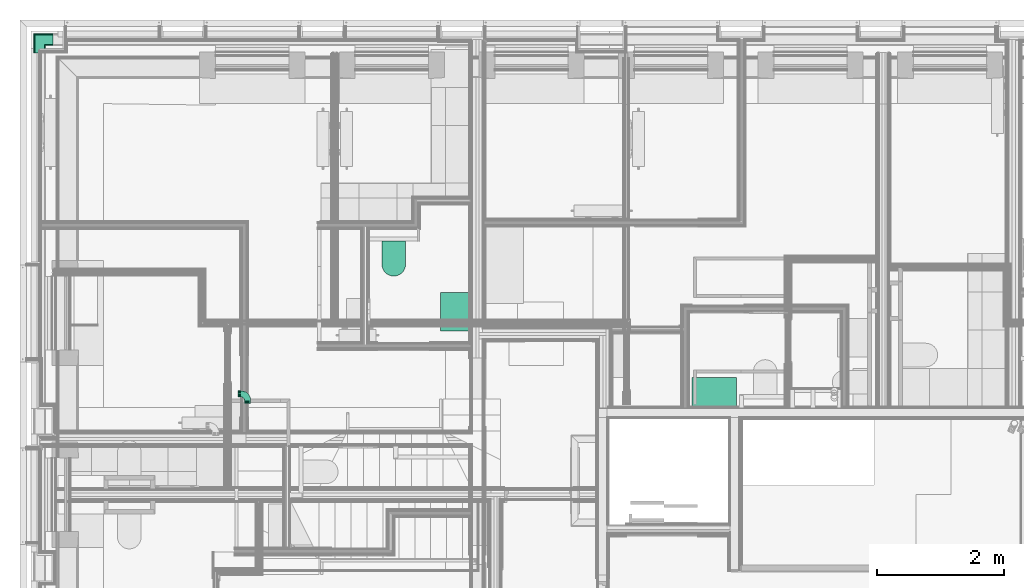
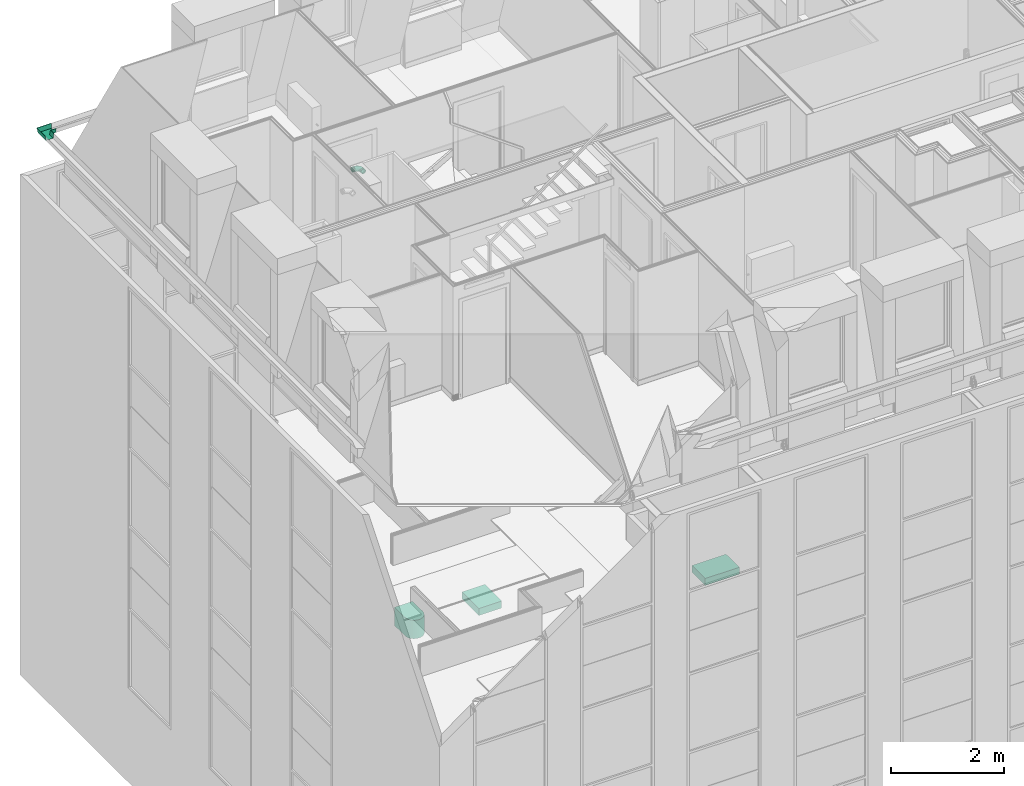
# One storey, part 157 of 169: 3 flow terminals, 2 flow fittings.
"""IFC2X3 building model written with IfcOpenShell, lengths in metres."""

from ifc_helpers import new_model, entity, si_unit, converted_unit, derived_unit, money_unit, direction, frame, origin_with_axes, place, context, subcontext, project, spatial, open_shell, faceted_brep, surface_model, material, type_object, element, save


model = new_model("IFC2X3")

# Units and contexts
model_context = context("Model", 3, precision=1e-05, world=origin_with_axes(), true_north=direction((0.0, 1.0)))
body_context = subcontext(model_context, "Body", "Model", "MODEL_VIEW", scale=1.0)
ifc_project = project(units=[si_unit("LENGTHUNIT", "METRE"), si_unit("AREAUNIT", "SQUARE_METRE"), si_unit("VOLUMEUNIT", "CUBIC_METRE"), si_unit("ABSORBEDDOSEUNIT", "GRAY"), si_unit("AMOUNTOFSUBSTANCEUNIT", "MOLE"), si_unit("DOSEEQUIVALENTUNIT", "SIEVERT"), si_unit("ELECTRICCAPACITANCEUNIT", "FARAD"), si_unit("ELECTRICCHARGEUNIT", "COULOMB"), si_unit("ELECTRICCONDUCTANCEUNIT", "SIEMENS"), si_unit("ELECTRICCURRENTUNIT", "AMPERE"), si_unit("ELECTRICRESISTANCEUNIT", "OHM"), si_unit("ELECTRICVOLTAGEUNIT", "VOLT"), si_unit("ENERGYUNIT", "JOULE"), si_unit("FORCEUNIT", "NEWTON"), si_unit("FREQUENCYUNIT", "HERTZ"), si_unit("ILLUMINANCEUNIT", "LUX"), si_unit("INDUCTANCEUNIT", "HENRY"), si_unit("LUMINOUSFLUXUNIT", "LUMEN"), si_unit("LUMINOUSINTENSITYUNIT", "CANDELA"), si_unit("MAGNETICFLUXDENSITYUNIT", "TESLA"), si_unit("MAGNETICFLUXUNIT", "WEBER"), si_unit("MASSUNIT", "GRAM"), converted_unit("PLANEANGLEUNIT", "degree", entity("IfcReal", 0.0174532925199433), si_unit("PLANEANGLEUNIT", "RADIAN"), dimensions=[0, 0, 0, 0, 0, 0, 0]), si_unit("POWERUNIT", "WATT"), si_unit("PRESSUREUNIT", "PASCAL"), si_unit("RADIOACTIVITYUNIT", "BECQUEREL"), si_unit("SOLIDANGLEUNIT", "STERADIAN"), si_unit("THERMODYNAMICTEMPERATUREUNIT", "KELVIN"), si_unit("TIMEUNIT", "SECOND"), derived_unit("ACCELERATIONUNIT", [(si_unit("LENGTHUNIT", "METRE"), 1), (si_unit("TIMEUNIT", "SECOND"), -2)]), derived_unit("ANGULARVELOCITYUNIT", [(converted_unit("PLANEANGLEUNIT", "degree", entity("IfcReal", 0.0174532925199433), si_unit("PLANEANGLEUNIT", "RADIAN"), dimensions=[0, 0, 0, 0, 0, 0, 0]), 1), (si_unit("TIMEUNIT", "SECOND"), -1)]), derived_unit("CURVATUREUNIT", [(converted_unit("PLANEANGLEUNIT", "degree", entity("IfcReal", 0.0174532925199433), si_unit("PLANEANGLEUNIT", "RADIAN"), dimensions=[0, 0, 0, 0, 0, 0, 0]), 1), (si_unit("LENGTHUNIT", "METRE"), -1)]), derived_unit("DYNAMICVISCOSITYUNIT", [(si_unit("PRESSUREUNIT", "PASCAL"), 1), (si_unit("TIMEUNIT", "SECOND"), 1)]), derived_unit("HEATFLUXDENSITYUNIT", [(si_unit("POWERUNIT", "WATT"), 1), (si_unit("LENGTHUNIT", "METRE"), -2)]), derived_unit("HEATINGVALUEUNIT", [(si_unit("ENERGYUNIT", "JOULE"), 1), (si_unit("MASSUNIT", "GRAM"), -1)]), derived_unit("INTEGERCOUNTRATEUNIT", [(si_unit("TIMEUNIT", "SECOND"), -1)]), derived_unit("IONCONCENTRATIONUNIT", [(si_unit("MASSUNIT", "GRAM"), 1), (si_unit("VOLUMEUNIT", "CUBIC_METRE"), -1)]), derived_unit("ISOTHERMALMOISTURECAPACITYUNIT", [(si_unit("VOLUMEUNIT", "CUBIC_METRE"), 1), (si_unit("MASSUNIT", "GRAM"), -1)]), derived_unit("KINEMATICVISCOSITYUNIT", [(si_unit("AREAUNIT", "SQUARE_METRE"), 1), (si_unit("TIMEUNIT", "SECOND"), -1)]), derived_unit("LINEARFORCEUNIT", [(si_unit("FORCEUNIT", "NEWTON"), 1), (si_unit("LENGTHUNIT", "METRE"), -1)]), derived_unit("LINEARMOMENTUNIT", [(si_unit("FORCEUNIT", "NEWTON"), 1), (si_unit("LENGTHUNIT", "METRE"), -1)]), derived_unit("LINEARSTIFFNESSUNIT", [(si_unit("FORCEUNIT", "NEWTON"), 1), (si_unit("LENGTHUNIT", "METRE"), -1)]), derived_unit("LINEARVELOCITYUNIT", [(si_unit("LENGTHUNIT", "METRE"), 1), (si_unit("TIMEUNIT", "SECOND"), -1)]), derived_unit("LUMINOUSINTENSITYDISTRIBUTIONUNIT", [(si_unit("LUMINOUSINTENSITYUNIT", "CANDELA"), 1), (si_unit("LUMINOUSFLUXUNIT", "LUMEN"), -1)]), derived_unit("MASSDENSITYUNIT", [(si_unit("MASSUNIT", "GRAM"), 1), (si_unit("VOLUMEUNIT", "CUBIC_METRE"), -1)]), derived_unit("MASSFLOWRATEUNIT", [(si_unit("MASSUNIT", "GRAM"), 1), (si_unit("TIMEUNIT", "SECOND"), -1)]), derived_unit("MASSPERLENGTHUNIT", [(si_unit("MASSUNIT", "GRAM"), 1), (si_unit("LENGTHUNIT", "METRE"), -1)]), derived_unit("MODULUSOFELASTICITYUNIT", [(si_unit("FORCEUNIT", "NEWTON"), 1), (si_unit("AREAUNIT", "SQUARE_METRE"), -1)]), derived_unit("MODULUSOFLINEARSUBGRADEREACTIONUNIT", [(si_unit("FORCEUNIT", "NEWTON"), 1), (si_unit("LENGTHUNIT", "METRE"), -2)]), derived_unit("MODULUSOFROTATIONALSUBGRADEREACTIONUNIT", [(si_unit("FORCEUNIT", "NEWTON"), 1), (si_unit("LENGTHUNIT", "METRE"), 1)]), derived_unit("MODULUSOFSUBGRADEREACTIONUNIT", [(si_unit("FORCEUNIT", "NEWTON"), 1), (si_unit("VOLUMEUNIT", "CUBIC_METRE"), -1)]), derived_unit("MOISTUREDIFFUSIVITYUNIT", [(si_unit("VOLUMEUNIT", "CUBIC_METRE"), 1), (si_unit("TIMEUNIT", "SECOND"), -1)]), derived_unit("MOLECULARWEIGHTUNIT", [(si_unit("MASSUNIT", "GRAM"), 1), (si_unit("AMOUNTOFSUBSTANCEUNIT", "MOLE"), -1)]), derived_unit("PLANARFORCEUNIT", [(si_unit("FORCEUNIT", "NEWTON"), 1), (si_unit("LENGTHUNIT", "METRE"), -2)]), derived_unit("ROTATIONALFREQUENCYUNIT", [(si_unit("TIMEUNIT", "SECOND"), -1)]), derived_unit("ROTATIONALMASSUNIT", [(si_unit("MASSUNIT", "GRAM"), 1), (si_unit("LENGTHUNIT", "METRE"), 2)]), derived_unit("ROTATIONALSTIFFNESSUNIT", [(si_unit("FORCEUNIT", "NEWTON"), 1), (si_unit("LENGTHUNIT", "METRE"), 1), (converted_unit("PLANEANGLEUNIT", "degree", entity("IfcReal", 0.0174532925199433), si_unit("PLANEANGLEUNIT", "RADIAN"), dimensions=[0, 0, 0, 0, 0, 0, 0]), -1)]), derived_unit("SECTIONAREAINTEGRALUNIT", [(si_unit("LENGTHUNIT", "METRE"), 5)]), derived_unit("SECTIONMODULUSUNIT", [(si_unit("LENGTHUNIT", "METRE"), 3)]), derived_unit("SHEARMODULUSUNIT", [(si_unit("FORCEUNIT", "NEWTON"), 1), (si_unit("AREAUNIT", "SQUARE_METRE"), -1)]), derived_unit("SOUNDPOWERUNIT", [(si_unit("ENERGYUNIT", "JOULE"), 1), (si_unit("TIMEUNIT", "SECOND"), -1)]), derived_unit("SPECIFICHEATCAPACITYUNIT", [(si_unit("FORCEUNIT", "NEWTON"), 1), (si_unit("MASSUNIT", "GRAM"), -1), (si_unit("THERMODYNAMICTEMPERATUREUNIT", "KELVIN"), -1)]), derived_unit("TEMPERATUREGRADIENTUNIT", [(si_unit("THERMODYNAMICTEMPERATUREUNIT", "KELVIN"), 1), (si_unit("LENGTHUNIT", "METRE"), -1)]), derived_unit("THERMALADMITTANCEUNIT", [(si_unit("POWERUNIT", "WATT"), 1), (si_unit("AREAUNIT", "SQUARE_METRE"), -1), (si_unit("THERMODYNAMICTEMPERATUREUNIT", "KELVIN"), -1)]), derived_unit("THERMALCONDUCTANCEUNIT", [(si_unit("POWERUNIT", "WATT"), 1), (si_unit("LENGTHUNIT", "METRE"), -1), (si_unit("THERMODYNAMICTEMPERATUREUNIT", "KELVIN"), -1)]), derived_unit("THERMALEXPANSIONCOEFFICIENTUNIT", [(si_unit("THERMODYNAMICTEMPERATUREUNIT", "KELVIN"), -1)]), derived_unit("THERMALRESISTANCEUNIT", [(si_unit("AREAUNIT", "SQUARE_METRE"), 1), (si_unit("POWERUNIT", "WATT"), -1)]), derived_unit("THERMALTRANSMITTANCEUNIT", [(si_unit("POWERUNIT", "WATT"), 1), (si_unit("AREAUNIT", "SQUARE_METRE"), -1), (si_unit("THERMODYNAMICTEMPERATUREUNIT", "KELVIN"), -1)]), derived_unit("TORQUEUNIT", [(si_unit("FORCEUNIT", "NEWTON"), 1), (si_unit("LENGTHUNIT", "METRE"), 1)]), derived_unit("VAPORPERMEABILITYUNIT", [(si_unit("MASSUNIT", "GRAM"), 1), (si_unit("TIMEUNIT", "SECOND"), -1)]), derived_unit("VOLUMETRICFLOWRATEUNIT", [(si_unit("VOLUMEUNIT", "CUBIC_METRE"), 1), (si_unit("TIMEUNIT", "SECOND"), -1)]), derived_unit("WARPINGCONSTANTUNIT", [(si_unit("LENGTHUNIT", "METRE"), 6)]), derived_unit("WARPINGMOMENTUNIT", [(si_unit("FORCEUNIT", "NEWTON"), 1), (si_unit("LENGTHUNIT", "METRE"), 2)]), money_unit("GBP")], contexts=[model_context])

# Site, building, storey, space
site_placement = place(None, origin_with_axes())
site = spatial("IfcSite", under=ifc_project, at=site_placement, Name="Site", CompositionType="ELEMENT")
building_placement = place(site_placement, origin_with_axes())
building = spatial("IfcBuilding", under=site, at=building_placement, Name="Building01", CompositionType="ELEMENT")
storey_placement = place(building_placement, frame((0.0, 0.0, 5.15), z_axis=(0.0, 0.0, 1.0), x_axis=(1.0, 0.0, 0.0)))
storey = spatial("IfcBuildingStorey", under=building, at=storey_placement, Name="1F", CompositionType="ELEMENT", Elevation=5.15)
space_1_placement = place(storey_placement, frame((1.009939, 13.890379, 9.86), z_axis=(0.0, 0.0, 1.0), x_axis=(0.0, -1.0, 0.0)))
space_1 = spatial("IfcSpace", under=storey, at=space_1_placement, Name="26", CompositionType="ELEMENT", InteriorOrExteriorSpace="NOTDEFINED")

# Flow fittings
ifc_material_1 = material(Name="M_BSUK_Ventilation")
duct_fitting_type = type_object("IfcDuctFittingType", Name="M-Roundelbow-DefaultRound", PredefinedType="BEND")
placement = place(building_placement, origin_with_axes())
flow_fitting_1_placement = place(placement, frame((3.57, 8.932559, 17.28), z_axis=(1.0, 0.0, 0.0), x_axis=(0.0, 1.0, 0.0)))
element("IfcFlowFitting", 1, at=flow_fitting_1_placement, inside=space_1, type_object=duct_fitting_type, material=ifc_material_1, Name="M-Roundelbow-DefaultRound", ObjectType="M-Roundelbow-DefaultRound", context=body_context, shape_type="SurfaceModel", body=[
    surface_model("IfcShellBasedSurfaceModel", [(0.008112, -0.01349, -0.048784), (0.0, -0.01349, -0.048146), (0.0, 0.0, -0.05), (0.007822, 0.0, -0.050616), (0.016024, -0.01349, -0.050684), (0.015451, 0.0, -0.052447), (0.023541, -0.01349, -0.053798), (0.0227, 0.0, -0.05545), (0.030479, -0.01349, -0.058049), (0.029389, 0.0, -0.059549), (0.036666, -0.01349, -0.063334), (0.035355, 0.0, -0.064645), (0.041951, -0.01349, -0.069521), (0.040451, 0.0, -0.070611), (0.046202, -0.01349, -0.076459), (0.04455, 0.0, -0.0773), (0.049316, -0.01349, -0.083976), (0.047553, 0.0, -0.084549), (0.051216, -0.01349, -0.091888), (0.049384, 0.0, -0.092178), (0.051854, -0.01349, -0.1), (0.05, 0.0, -0.1), (0.00896, -0.025979, -0.043426), (0.0, -0.025979, -0.042721), (0.0177, -0.025979, -0.045524), (0.026004, -0.025979, -0.048964), (0.033668, -0.025979, -0.05366), (0.040502, -0.025979, -0.059498), (0.04634, -0.025979, -0.066332), (0.051036, -0.025979, -0.073996), (0.054476, -0.025979, -0.0823), (0.056574, -0.025979, -0.09104), (0.057279, -0.025979, -0.1), (0.010305, -0.036542, -0.034939), (0.0, -0.036542, -0.034128), (0.020356, -0.036542, -0.037352), (0.029905, -0.036542, -0.041307), (0.038719, -0.036542, -0.046708), (0.046579, -0.036542, -0.053421), (0.053292, -0.036542, -0.061281), (0.058693, -0.036542, -0.070095), (0.062648, -0.036542, -0.079644), (0.065061, -0.036542, -0.089695), (0.065872, -0.036542, -0.1), (0.012045, -0.044394, -0.023951), (0.0, -0.044394, -0.023003), (0.023793, -0.044394, -0.026772), (0.034956, -0.044394, -0.031395), (0.045258, -0.044394, -0.037708), (0.054445, -0.044394, -0.045555), (0.062292, -0.044394, -0.054742), (0.068605, -0.044394, -0.065044), (0.073228, -0.044394, -0.076207), (0.076049, -0.044394, -0.087955), (0.076997, -0.044394, -0.1), (0.014052, -0.048954, -0.011279), (0.0, -0.048954, -0.010173), (0.027758, -0.048954, -0.014569), (0.040781, -0.048954, -0.019963), (0.052799, -0.048954, -0.027328), (0.063517, -0.048954, -0.036483), (0.072672, -0.048954, -0.047201), (0.080037, -0.048954, -0.059219), (0.085431, -0.048954, -0.072242), (0.088721, -0.048954, -0.085948), (0.089827, -0.048954, -0.1), (0.016177, -0.049883, 0.002139), (0.0, -0.049883, 0.003412), (0.031956, -0.049883, -0.001649), (0.046948, -0.049883, -0.007859), (0.060784, -0.049883, -0.016338), (0.073123, -0.049883, -0.026877), (0.083662, -0.049883, -0.039216), (0.092141, -0.049883, -0.053052), (0.098351, -0.049883, -0.068044), (0.102139, -0.049883, -0.083823), (0.103412, -0.049883, -0.1), (0.018263, -0.047113, 0.015307), (0.0, -0.047113, 0.016744), (0.036076, -0.047113, 0.01103), (0.053001, -0.047113, 0.00402), (0.06862, -0.047113, -0.005552), (0.08255, -0.047113, -0.01745), (0.094448, -0.047113, -0.03138), (0.10402, -0.047113, -0.046999), (0.11103, -0.047113, -0.063924), (0.115307, -0.047113, -0.081737), (0.116744, -0.047113, -0.1), (0.020154, -0.040848, 0.027248), (0.0, -0.040848, 0.028834), (0.039812, -0.040848, 0.022528), (0.058489, -0.040848, 0.014792), (0.075727, -0.040848, 0.004229), (0.091099, -0.040848, -0.008901), (0.104229, -0.040848, -0.024273), (0.114792, -0.040848, -0.041511), (0.122528, -0.040848, -0.060188), (0.127248, -0.040848, -0.079846), (0.128834, -0.040848, -0.1), (0.021711, -0.031554, 0.037077), (0.0, -0.031554, 0.038786), (0.042887, -0.031554, 0.031993), (0.063007, -0.031554, 0.023659), (0.081576, -0.031554, 0.01228), (0.098136, -0.031554, -0.001864), (0.11228, -0.031554, -0.018424), (0.123659, -0.031554, -0.036993), (0.131993, -0.031554, -0.057113), (0.137077, -0.031554, -0.078289), (0.138786, -0.031554, -0.1), (0.022818, -0.01992, 0.044065), (0.0, -0.01992, 0.045861), (0.045073, -0.01992, 0.038722), (0.066219, -0.01992, 0.029963), (0.085735, -0.01992, 0.018004), (0.103139, -0.01992, 0.003139), (0.118004, -0.01992, -0.014265), (0.129963, -0.01992, -0.033781), (0.138722, -0.01992, -0.054927), (0.144065, -0.01992, -0.077182), (0.145861, -0.01992, -0.1), (0.023392, -0.006808, 0.047693), (0.0, -0.006808, 0.049534), (0.046209, -0.006808, 0.042216), (0.067887, -0.006808, 0.033236), (0.087894, -0.006808, 0.020976), (0.105737, -0.006808, 0.005737), (0.120976, -0.006808, -0.012106), (0.133236, -0.006808, -0.032113), (0.142216, -0.006808, -0.053791), (0.147693, -0.006808, -0.076608), (0.149534, -0.006808, -0.1), (0.023392, 0.006808, 0.047693), (0.0, 0.006808, 0.049534), (0.046209, 0.006808, 0.042216), (0.067887, 0.006808, 0.033236), (0.087894, 0.006808, 0.020976), (0.105737, 0.006808, 0.005737), (0.120976, 0.006808, -0.012106), (0.133236, 0.006808, -0.032113), (0.142216, 0.006808, -0.053791), (0.147693, 0.006808, -0.076608), (0.149534, 0.006808, -0.1), (0.022818, 0.01992, 0.044065), (0.0, 0.01992, 0.045861), (0.045073, 0.01992, 0.038722), (0.066219, 0.01992, 0.029963), (0.085735, 0.01992, 0.018004), (0.103139, 0.01992, 0.003139), (0.118004, 0.01992, -0.014265), (0.129963, 0.01992, -0.033781), (0.138722, 0.01992, -0.054927), (0.144065, 0.01992, -0.077182), (0.145861, 0.01992, -0.1), (0.021711, 0.031554, 0.037077), (0.0, 0.031554, 0.038786), (0.042887, 0.031554, 0.031993), (0.063007, 0.031554, 0.023659), (0.081576, 0.031554, 0.01228), (0.098136, 0.031554, -0.001864), (0.11228, 0.031554, -0.018424), (0.123659, 0.031554, -0.036993), (0.131993, 0.031554, -0.057113), (0.137077, 0.031554, -0.078289), (0.138786, 0.031554, -0.1), (0.020154, 0.040848, 0.027248), (0.0, 0.040848, 0.028834), (0.039812, 0.040848, 0.022528), (0.058489, 0.040848, 0.014792), (0.075727, 0.040848, 0.004229), (0.091099, 0.040848, -0.008901), (0.104229, 0.040848, -0.024273), (0.114792, 0.040848, -0.041511), (0.122528, 0.040848, -0.060188), (0.127248, 0.040848, -0.079846), (0.128834, 0.040848, -0.1), (0.018263, 0.047113, 0.015307), (0.0, 0.047113, 0.016744), (0.036076, 0.047113, 0.01103), (0.053001, 0.047113, 0.00402), (0.06862, 0.047113, -0.005552), (0.08255, 0.047113, -0.01745), (0.094448, 0.047113, -0.03138), (0.10402, 0.047113, -0.046999), (0.11103, 0.047113, -0.063924), (0.115307, 0.047113, -0.081737), (0.116744, 0.047113, -0.1), (0.016177, 0.049883, 0.002139), (0.0, 0.049883, 0.003412), (0.031956, 0.049883, -0.001649), (0.046948, 0.049883, -0.007859), (0.060784, 0.049883, -0.016338), (0.073123, 0.049883, -0.026877), (0.083662, 0.049883, -0.039216), (0.092141, 0.049883, -0.053052), (0.098351, 0.049883, -0.068044), (0.102139, 0.049883, -0.083823), (0.103412, 0.049883, -0.1), (0.014052, 0.048954, -0.011279), (0.0, 0.048954, -0.010173), (0.027758, 0.048954, -0.014569), (0.040781, 0.048954, -0.019963), (0.052799, 0.048954, -0.027328), (0.063517, 0.048954, -0.036483), (0.072672, 0.048954, -0.047201), (0.080037, 0.048954, -0.059219), (0.085431, 0.048954, -0.072242), (0.088721, 0.048954, -0.085948), (0.089827, 0.048954, -0.1), (0.012045, 0.044394, -0.023951), (0.0, 0.044394, -0.023003), (0.023793, 0.044394, -0.026772), (0.034956, 0.044394, -0.031395), (0.045258, 0.044394, -0.037708), (0.054445, 0.044394, -0.045555), (0.062292, 0.044394, -0.054742), (0.068605, 0.044394, -0.065044), (0.073228, 0.044394, -0.076207), (0.076049, 0.044394, -0.087955), (0.076997, 0.044394, -0.1), (0.010305, 0.036542, -0.034939), (0.0, 0.036542, -0.034128), (0.020356, 0.036542, -0.037352), (0.029905, 0.036542, -0.041307), (0.038719, 0.036542, -0.046708), (0.046579, 0.036542, -0.053421), (0.053292, 0.036542, -0.061281), (0.058693, 0.036542, -0.070095), (0.062648, 0.036542, -0.079644), (0.065061, 0.036542, -0.089695), (0.065872, 0.036542, -0.1), (0.00896, 0.025979, -0.043426), (0.0, 0.025979, -0.042721), (0.0177, 0.025979, -0.045524), (0.026004, 0.025979, -0.048964), (0.033668, 0.025979, -0.05366), (0.040502, 0.025979, -0.059498), (0.04634, 0.025979, -0.066332), (0.051036, 0.025979, -0.073996), (0.054476, 0.025979, -0.0823), (0.056574, 0.025979, -0.09104), (0.057279, 0.025979, -0.1), (0.008112, 0.01349, -0.048784), (0.0, 0.01349, -0.048146), (0.016024, 0.01349, -0.050684), (0.023541, 0.01349, -0.053798), (0.030479, 0.01349, -0.058049), (0.036666, 0.01349, -0.063334), (0.041951, 0.01349, -0.069521), (0.046202, 0.01349, -0.076459), (0.049316, 0.01349, -0.083976), (0.051216, 0.01349, -0.091888), (0.051854, 0.01349, -0.1), (-0.05, 0.0, -0.05), (0.0, -0.019134, -0.046194), (-0.05, -0.019134, -0.046194), (0.0, -0.035355, -0.035355), (-0.05, -0.035355, -0.035355), (0.0, -0.046194, -0.019134), (-0.05, -0.046194, -0.019134), (0.0, -0.05, 0.0), (-0.05, -0.05, 0.0), (0.0, -0.046194, 0.019134), (-0.05, -0.046194, 0.019134), (0.0, -0.035355, 0.035355), (-0.05, -0.035355, 0.035355), (0.0, -0.019134, 0.046194), (-0.05, -0.019134, 0.046194), (0.0, 0.0, 0.05), (-0.05, 0.0, 0.05), (0.0, 0.019134, 0.046194), (-0.05, 0.019134, 0.046194), (0.0, 0.035355, 0.035355), (-0.05, 0.035355, 0.035355), (0.0, 0.046194, 0.019134), (-0.05, 0.046194, 0.019134), (0.0, 0.05, 0.0), (-0.05, 0.05, 0.0), (0.0, 0.046194, -0.019134), (-0.05, 0.046194, -0.019134), (0.0, 0.035355, -0.035355), (-0.05, 0.035355, -0.035355), (0.0, 0.019134, -0.046194), (-0.05, 0.019134, -0.046194), (0.05, 0.0, -0.15), (0.053806, 0.019134, -0.1), (0.053806, 0.019134, -0.15), (0.064645, 0.035355, -0.1), (0.064645, 0.035355, -0.15), (0.080866, 0.046194, -0.1), (0.080866, 0.046194, -0.15), (0.1, 0.05, -0.1), (0.1, 0.05, -0.15), (0.119134, 0.046194, -0.1), (0.119134, 0.046194, -0.15), (0.135355, 0.035355, -0.1), (0.135355, 0.035355, -0.15), (0.146194, 0.019134, -0.1), (0.146194, 0.019134, -0.15), (0.15, 0.0, -0.1), (0.15, 0.0, -0.15), (0.146194, -0.019134, -0.1), (0.146194, -0.019134, -0.15), (0.135355, -0.035355, -0.1), (0.135355, -0.035355, -0.15), (0.119134, -0.046194, -0.1), (0.119134, -0.046194, -0.15), (0.1, -0.05, -0.1), (0.1, -0.05, -0.15), (0.080866, -0.046194, -0.1), (0.080866, -0.046194, -0.15), (0.064645, -0.035355, -0.1), (0.064645, -0.035355, -0.15), (0.053806, -0.019134, -0.1), (0.053806, -0.019134, -0.15)], [open_shell([[[0, 1, 2, 3]], [[4, 0, 3, 5]], [[6, 4, 5, 7]], [[8, 6, 7, 9]], [[10, 8, 9, 11]], [[12, 10, 11, 13]], [[14, 12, 13, 15]], [[16, 14, 15, 17]], [[18, 16, 17, 19]], [[20, 18, 19, 21]], [[22, 23, 1, 0]], [[24, 22, 0, 4]], [[25, 24, 4, 6]], [[26, 25, 6, 8]], [[27, 26, 8, 10]], [[28, 27, 10, 12]], [[29, 28, 12, 14]], [[30, 29, 14, 16]], [[31, 30, 16, 18]], [[32, 31, 18, 20]], [[33, 34, 23, 22]], [[35, 33, 22, 24]], [[36, 35, 24, 25]], [[37, 36, 25, 26]], [[38, 37, 26, 27]], [[39, 38, 27, 28]], [[40, 39, 28, 29]], [[41, 40, 29, 30]], [[42, 41, 30, 31]], [[43, 42, 31, 32]], [[44, 45, 34, 33]], [[46, 44, 33, 35]], [[47, 46, 35, 36]], [[48, 47, 36, 37]], [[49, 48, 37, 38]], [[50, 49, 38, 39]], [[51, 50, 39, 40]], [[52, 51, 40, 41]], [[53, 52, 41, 42]], [[54, 53, 42, 43]], [[55, 56, 45, 44]], [[57, 55, 44, 46]], [[58, 57, 46, 47]], [[59, 58, 47, 48]], [[60, 59, 48, 49]], [[61, 60, 49, 50]], [[62, 61, 50, 51]], [[63, 62, 51, 52]], [[64, 63, 52, 53]], [[65, 64, 53, 54]], [[66, 67, 56, 55]], [[68, 66, 55, 57]], [[69, 68, 57, 58]], [[70, 69, 58, 59]], [[71, 70, 59, 60]], [[72, 71, 60, 61]], [[73, 72, 61, 62]], [[74, 73, 62, 63]], [[75, 74, 63, 64]], [[76, 75, 64, 65]], [[77, 78, 67, 66]], [[79, 77, 66, 68]], [[80, 79, 68, 69]], [[81, 80, 69, 70]], [[82, 81, 70, 71]], [[83, 82, 71, 72]], [[84, 83, 72, 73]], [[85, 84, 73, 74]], [[86, 85, 74, 75]], [[87, 86, 75, 76]], [[88, 89, 78, 77]], [[90, 88, 77, 79]], [[91, 90, 79, 80]], [[92, 91, 80, 81]], [[93, 92, 81, 82]], [[94, 93, 82, 83]], [[95, 94, 83, 84]], [[96, 95, 84, 85]], [[97, 96, 85, 86]], [[98, 97, 86, 87]], [[99, 100, 89, 88]], [[101, 99, 88, 90]], [[102, 101, 90, 91]], [[103, 102, 91, 92]], [[104, 103, 92, 93]], [[105, 104, 93, 94]], [[106, 105, 94, 95]], [[107, 106, 95, 96]], [[108, 107, 96, 97]], [[109, 108, 97, 98]], [[110, 111, 100, 99]], [[112, 110, 99, 101]], [[113, 112, 101, 102]], [[114, 113, 102, 103]], [[115, 114, 103, 104]], [[116, 115, 104, 105]], [[117, 116, 105, 106]], [[118, 117, 106, 107]], [[119, 118, 107, 108]], [[120, 119, 108, 109]], [[121, 122, 111, 110]], [[123, 121, 110, 112]], [[124, 123, 112, 113]], [[125, 124, 113, 114]], [[126, 125, 114, 115]], [[127, 126, 115, 116]], [[128, 127, 116, 117]], [[129, 128, 117, 118]], [[130, 129, 118, 119]], [[131, 130, 119, 120]], [[132, 133, 122, 121]], [[134, 132, 121, 123]], [[135, 134, 123, 124]], [[136, 135, 124, 125]], [[137, 136, 125, 126]], [[138, 137, 126, 127]], [[139, 138, 127, 128]], [[140, 139, 128, 129]], [[141, 140, 129, 130]], [[142, 141, 130, 131]], [[143, 144, 133, 132]], [[145, 143, 132, 134]], [[146, 145, 134, 135]], [[147, 146, 135, 136]], [[148, 147, 136, 137]], [[149, 148, 137, 138]], [[150, 149, 138, 139]], [[151, 150, 139, 140]], [[152, 151, 140, 141]], [[153, 152, 141, 142]], [[154, 155, 144, 143]], [[156, 154, 143, 145]], [[157, 156, 145, 146]], [[158, 157, 146, 147]], [[159, 158, 147, 148]], [[160, 159, 148, 149]], [[161, 160, 149, 150]], [[162, 161, 150, 151]], [[163, 162, 151, 152]], [[164, 163, 152, 153]], [[165, 166, 155, 154]], [[167, 165, 154, 156]], [[168, 167, 156, 157]], [[169, 168, 157, 158]], [[170, 169, 158, 159]], [[171, 170, 159, 160]], [[172, 171, 160, 161]], [[173, 172, 161, 162]], [[174, 173, 162, 163]], [[175, 174, 163, 164]], [[176, 177, 166, 165]], [[178, 176, 165, 167]], [[179, 178, 167, 168]], [[180, 179, 168, 169]], [[181, 180, 169, 170]], [[182, 181, 170, 171]], [[183, 182, 171, 172]], [[184, 183, 172, 173]], [[185, 184, 173, 174]], [[186, 185, 174, 175]], [[187, 188, 177, 176]], [[189, 187, 176, 178]], [[190, 189, 178, 179]], [[191, 190, 179, 180]], [[192, 191, 180, 181]], [[193, 192, 181, 182]], [[194, 193, 182, 183]], [[195, 194, 183, 184]], [[196, 195, 184, 185]], [[197, 196, 185, 186]], [[198, 199, 188, 187]], [[200, 198, 187, 189]], [[201, 200, 189, 190]], [[202, 201, 190, 191]], [[203, 202, 191, 192]], [[204, 203, 192, 193]], [[205, 204, 193, 194]], [[206, 205, 194, 195]], [[207, 206, 195, 196]], [[208, 207, 196, 197]], [[209, 210, 199, 198]], [[211, 209, 198, 200]], [[212, 211, 200, 201]], [[213, 212, 201, 202]], [[214, 213, 202, 203]], [[215, 214, 203, 204]], [[216, 215, 204, 205]], [[217, 216, 205, 206]], [[218, 217, 206, 207]], [[219, 218, 207, 208]], [[220, 221, 210, 209]], [[222, 220, 209, 211]], [[223, 222, 211, 212]], [[224, 223, 212, 213]], [[225, 224, 213, 214]], [[226, 225, 214, 215]], [[227, 226, 215, 216]], [[228, 227, 216, 217]], [[229, 228, 217, 218]], [[230, 229, 218, 219]], [[231, 232, 221, 220]], [[233, 231, 220, 222]], [[234, 233, 222, 223]], [[235, 234, 223, 224]], [[236, 235, 224, 225]], [[237, 236, 225, 226]], [[238, 237, 226, 227]], [[239, 238, 227, 228]], [[240, 239, 228, 229]], [[241, 240, 229, 230]], [[242, 243, 232, 231]], [[244, 242, 231, 233]], [[245, 244, 233, 234]], [[246, 245, 234, 235]], [[247, 246, 235, 236]], [[248, 247, 236, 237]], [[249, 248, 237, 238]], [[250, 249, 238, 239]], [[251, 250, 239, 240]], [[252, 251, 240, 241]], [[3, 2, 243, 242]], [[5, 3, 242, 244]], [[7, 5, 244, 245]], [[9, 7, 245, 246]], [[11, 9, 246, 247]], [[13, 11, 247, 248]], [[15, 13, 248, 249]], [[17, 15, 249, 250]], [[19, 17, 250, 251]], [[21, 19, 251, 252]], [[253, 2, 254, 255]], [[255, 254, 256, 257]], [[257, 256, 258, 259]], [[259, 258, 260, 261]], [[261, 260, 262, 263]], [[263, 262, 264, 265]], [[265, 264, 266, 267]], [[267, 266, 268, 269]], [[269, 268, 270, 271]], [[271, 270, 272, 273]], [[273, 272, 274, 275]], [[275, 274, 276, 277]], [[277, 276, 278, 279]], [[279, 278, 280, 281]], [[281, 280, 282, 283]], [[283, 282, 2, 253]], [[284, 21, 285, 286]], [[286, 285, 287, 288]], [[288, 287, 289, 290]], [[290, 289, 291, 292]], [[292, 291, 293, 294]], [[294, 293, 295, 296]], [[296, 295, 297, 298]], [[298, 297, 299, 300]], [[300, 299, 301, 302]], [[302, 301, 303, 304]], [[304, 303, 305, 306]], [[306, 305, 307, 308]], [[308, 307, 309, 310]], [[310, 309, 311, 312]], [[312, 311, 313, 314]], [[314, 313, 21, 284]]])]),
])
ifc_material_2 = material(Name="A_BSUK_RainwaterDrainageSystems")
pipe_fitting_type = type_object("IfcPipeFittingType", Name="A-RainwaterDrainageSystems-GutterCorner", PredefinedType="NOTDEFINED")
flow_fitting_2_placement = place(storey_placement, frame((0.514346, 14.385653, 10.629268), z_axis=(0.0, 0.0, 1.0), x_axis=(1.0, 0.0, 0.0)))
element("IfcFlowFitting", 2, at=flow_fitting_2_placement, inside=storey, type_object=pipe_fitting_type, material=ifc_material_2, Name="A-RainwaterDrainageSystems-GutterCorner", ObjectType="A-RainwaterDrainageSystems-GutterCorner", context=body_context, shape_type="Brep", body=[
    faceted_brep([(-0.111195, 1e-06, 0.100732), (-0.118241, 1e-06, 0.100732), (-0.131294, 1e-06, 0.001588), (-0.279902, 1e-06, 0.001588), (-0.292954, 1e-06, 0.100732), (-0.3, 1e-06, 0.100732), (-0.3, 1e-06, 0.099145), (-0.294346, 1e-06, 0.099145), (-0.281294, 1e-06, 0.0), (-0.129902, 1e-06, 0.0), (-0.116849, 1e-06, 0.099145), (-0.111195, 1e-06, 0.099145), (0.0, 0.111195, 0.099145), (0.0, 0.116849, 0.099145), (0.0, 0.129902, 0.0), (0.0, 0.281294, 0.0), (0.0, 0.294347, 0.099145), (0.0, 0.300001, 0.099145), (0.0, 0.300001, 0.100732), (0.0, 0.292954, 0.100732), (0.0, 0.279902, 0.001588), (0.0, 0.131294, 0.001588), (0.0, 0.118241, 0.100732), (0.0, 0.111195, 0.100732), (-0.111195, 0.111195, 0.099145), (-0.111195, 0.111195, 0.100732), (-0.118241, 0.118241, 0.100732), (-0.131294, 0.131294, 0.001588), (-0.279902, 0.279902, 0.001588), (-0.292954, 0.292954, 0.100732), (-0.3, 0.300001, 0.100732), (-0.3, 0.300001, 0.099145), (-0.294346, 0.294347, 0.099145), (-0.281294, 0.281294, 0.0), (-0.129902, 0.129902, 0.0), (-0.116849, 0.116849, 0.099145)], [[[0, 1, 2, 3, 4, 5, 6, 7, 8, 9, 10, 11]], [[12, 13, 14, 15, 16, 17, 18, 19, 20, 21, 22, 23]], [[24, 12, 23, 25]], [[0, 25, 23, 22, 26, 1]], [[26, 22, 21, 27]], [[1, 26, 27, 2]], [[2, 27, 21, 20, 28, 3]], [[28, 20, 19, 29]], [[3, 28, 29, 4]], [[4, 29, 19, 18, 30, 5]], [[30, 18, 17, 31]], [[5, 30, 31, 6]], [[6, 31, 17, 16, 32, 7]], [[32, 16, 15, 33]], [[7, 32, 33, 8]], [[8, 33, 15, 14, 34, 9]], [[34, 14, 13, 35]], [[9, 34, 35, 10]], [[10, 35, 13, 12, 24, 11]], [[11, 24, 25, 0]]]),
])

# Space
space_2_placement = place(storey_placement, frame((7.064669, 14.582, 0.017975), z_axis=(0.0, 0.0, 1.0), x_axis=(-1.0, 0.0, 0.0)))
space_2 = spatial("IfcSpace", under=storey, at=space_2_placement, Name="07", CompositionType="ELEMENT", InteriorOrExteriorSpace="NOTDEFINED")

# Flow terminals
sanitary_terminal_type_1 = type_object("IfcSanitaryTerminalType", Name="SHE_A-Sink_47x60", PredefinedType="NOTDEFINED")
flow_terminal_1_placement = place(storey_placement, frame((6.829668, 10.32326, 0.825), z_axis=(0.0, 0.0, 1.0), x_axis=(1.0, 0.0, 0.0)))
element("IfcFlowTerminal", 3, at=flow_terminal_1_placement, inside=space_2, type_object=sanitary_terminal_type_1, Name="07", ObjectType="SHE_A-Sink_47x60", context=body_context, shape_type="Brep", body=[
    faceted_brep([(-0.235, 0.3, -0.075), (-0.235, 0.3, 0.075), (0.235, 0.3, 0.075), (0.235, 0.3, -0.075), (-0.235, -0.3, -0.075), (-0.235, -0.3, 0.075), (0.235, -0.3, -0.075), (0.235, -0.3, 0.075)], [[[0, 1, 2, 3]], [[4, 5, 1, 0]], [[6, 7, 5, 4]], [[3, 2, 7, 6]], [[1, 5, 7, 2]], [[3, 6, 4, 0]]]),
])
sanitary_terminal_type_2 = type_object("IfcSanitaryTerminalType", Name="SHE_A-Toilet_base", PredefinedType="NOTDEFINED")
flow_terminal_2_placement = place(storey_placement, frame((5.864669, 11.155667, 0.2), z_axis=(0.0, 0.0, 1.0), x_axis=(0.0, 1.0, 0.0)))
element("IfcFlowTerminal", 4, at=flow_terminal_2_placement, inside=space_2, type_object=sanitary_terminal_type_2, Name="07", ObjectType="SHE_A-Toilet_base", context=body_context, shape_type="Brep", body=[
    faceted_brep([(0.275003, 0.185008, -0.2), (0.275003, -0.185009, -0.2), (-0.089995, -0.185009, -0.2), (-0.126088, -0.181454, -0.2), (-0.160795, -0.170926, -0.2), (-0.19278, -0.153829, -0.2), (-0.220816, -0.130821, -0.2), (-0.243824, -0.102785, -0.2), (-0.26092, -0.0708, -0.2), (-0.271448, -0.036093, -0.2), (-0.275003, 0.0, -0.2), (-0.271448, 0.036093, -0.2), (-0.26092, 0.0708, -0.2), (-0.243824, 0.102785, -0.2), (-0.220816, 0.130821, -0.2), (-0.19278, 0.153829, -0.2), (-0.160795, 0.170926, -0.2), (-0.126088, 0.181454, -0.2), (-0.089995, 0.185008, -0.2), (-0.089995, 0.185008, 0.2), (-0.126088, 0.181454, 0.2), (-0.160795, 0.170926, 0.2), (-0.19278, 0.153829, 0.2), (-0.220816, 0.130821, 0.2), (-0.243824, 0.102785, 0.2), (-0.26092, 0.0708, 0.2), (-0.271448, 0.036093, 0.2), (-0.275003, 0.0, 0.2), (-0.271448, -0.036093, 0.2), (-0.26092, -0.0708, 0.2), (-0.243824, -0.102785, 0.2), (-0.220816, -0.130821, 0.2), (-0.19278, -0.153829, 0.2), (-0.160795, -0.170926, 0.2), (-0.126088, -0.181454, 0.2), (-0.089995, -0.185009, 0.2), (0.275003, -0.185009, 0.2), (0.275003, 0.185008, 0.2)], [[[0, 1, 2, 3, 4, 5, 6, 7, 8, 9, 10, 11, 12, 13, 14, 15, 16, 17, 18]], [[19, 20, 21, 22, 23, 24, 25, 26, 27, 28, 29, 30, 31, 32, 33, 34, 35, 36, 37]], [[2, 35, 34, 3]], [[3, 34, 33, 4]], [[4, 33, 32, 5]], [[5, 32, 31, 6]], [[6, 31, 30, 7]], [[7, 30, 29, 8]], [[8, 29, 28, 9]], [[9, 28, 27, 10]], [[10, 27, 26, 11]], [[11, 26, 25, 12]], [[12, 25, 24, 13]], [[13, 24, 23, 14]], [[14, 23, 22, 15]], [[15, 22, 21, 16]], [[16, 21, 20, 17]], [[17, 20, 19, 18]], [[1, 36, 35, 2]], [[0, 37, 36, 1]], [[18, 19, 37, 0]]]),
])

# Space
space_3_placement = place(storey_placement, frame((7.289669, 14.582, 0.017975), z_axis=(0.0, 0.0, 1.0), x_axis=(0.0, -1.0, 0.0)))
space_3 = spatial("IfcSpace", under=storey, at=space_3_placement, Name="08", CompositionType="ELEMENT", InteriorOrExteriorSpace="NOTDEFINED")

# Flow terminal
sanitary_terminal_type_3 = type_object("IfcSanitaryTerminalType", Name="SHE_A-Sink_47x70", PredefinedType="NOTDEFINED")
flow_terminal_3_placement = place(storey_placement, frame((10.893577, 9.055, 0.825), z_axis=(0.0, 0.0, 1.0), x_axis=(0.0, -1.0, 0.0)))
element("IfcFlowTerminal", 5, at=flow_terminal_3_placement, inside=space_3, type_object=sanitary_terminal_type_3, Name="08", ObjectType="SHE_A-Sink_47x70", context=body_context, shape_type="Brep", body=[
    faceted_brep([(-0.235, 0.35, -0.075), (-0.235, 0.35, 0.075), (0.235, 0.35, 0.075), (0.235, 0.35, -0.075), (-0.235, -0.35, -0.075), (-0.235, -0.35, 0.075), (0.235, -0.35, -0.075), (0.235, -0.35, 0.075)], [[[0, 1, 2, 3]], [[4, 5, 1, 0]], [[6, 7, 5, 4]], [[3, 2, 7, 6]], [[1, 5, 7, 2]], [[3, 6, 4, 0]]]),
])

save(model, "model.ifc")
